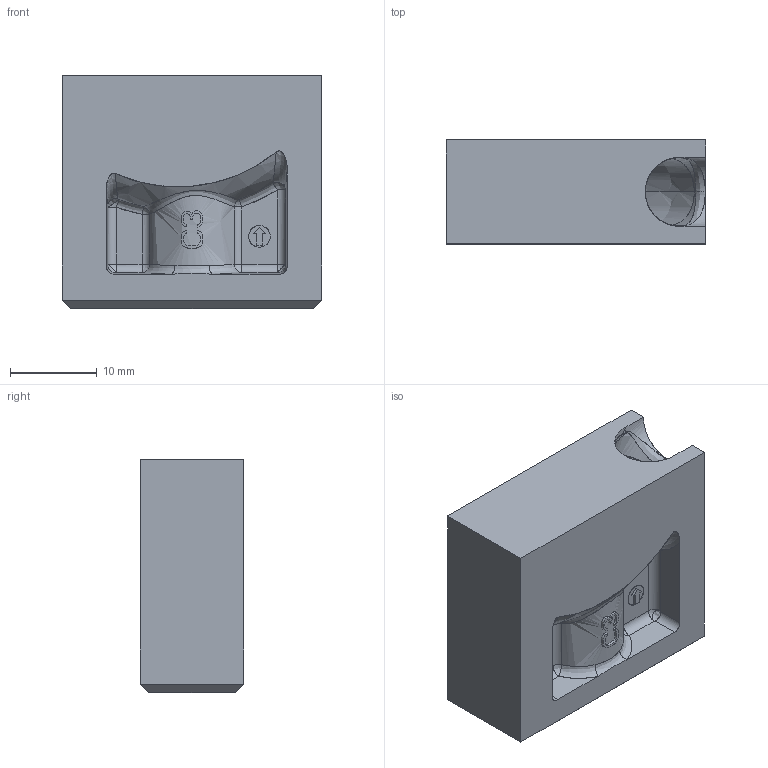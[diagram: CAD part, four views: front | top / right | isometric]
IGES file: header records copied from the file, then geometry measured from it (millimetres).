
Start section: VISI Layer Mapping Iges    VISI  0      0  1      WARNINGS
Global section: file name: G:\Produktkommunikation\Support\CD-Online-Katalog\3D Daten Produkte\E1680_85_90_92_95\E1692_30.igs; native system: VISI 16.0; preprocessor: 2.0; author: PUM; organization: Unknown; date: 20110119.165820; units: millimetre
Bounding box: 30 x 12 x 27 mm (x, y, z)
Surface area: 4300.2 mm2 (no closed solid volume)
Topology: 0 solids, 0 shells, 263 faces, 2185 edges, 2160 vertices
Faces by surface type: bspline 263
